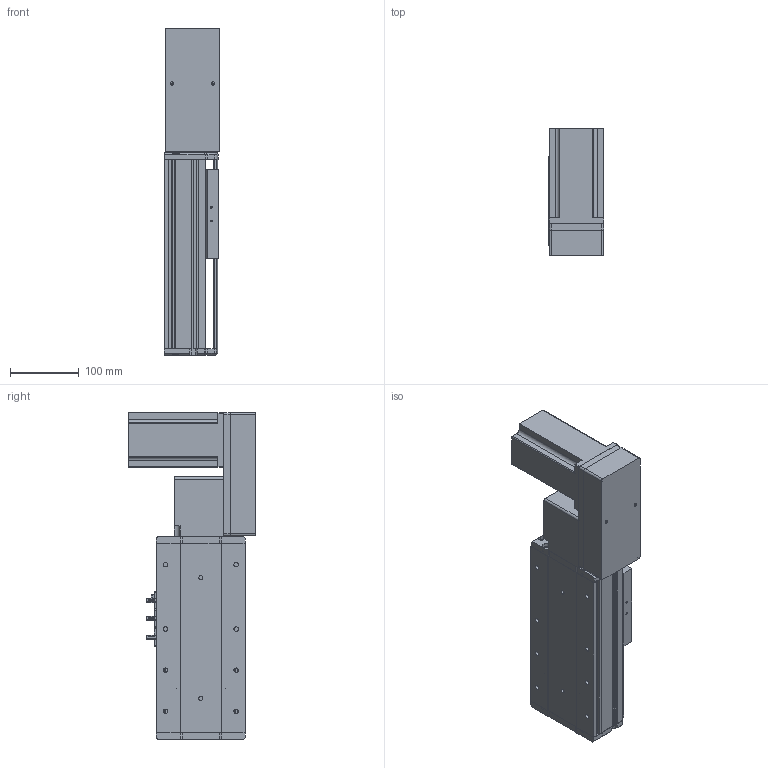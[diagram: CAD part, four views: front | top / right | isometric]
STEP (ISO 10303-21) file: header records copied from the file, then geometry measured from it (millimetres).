
FILE_DESCRIPTION (( 'STEP AP214' ), '1' );
FILE_NAME ('KSD130B-S50-MLB-CM.STEP', '2019-09-19T06:08:02', ( '微软用户' ), ( '微软中国' ), 'SwSTEP 2.0', 'SolidWorks 2014', '' );
FILE_SCHEMA (( 'AUTOMOTIVE_DESIGN' ));
Length unit declared in the file: millimetre
Products named in the file (12): 台达ECMA－C20807AS伺服电机; 130宽模组保护罩上下左右折-同步带; 130宽模组马达安装板连板左右折同步带; 覜茼え100遵圉猾敕; U倰嫖萇EEㄜSX672; 130宽盖板半封闭同步带-50行程; 130宽马达安装板同步带左-改; 130宽马达安装板同步带半封闭; 130宽同步带安装座半封闭; 130宽端盖同步带半封闭; 130宽底板半封闭同步带-50行程; KSD130B-S50-MLB-CM
Assembly tree (13 placements, depth 2):
  KSD130B-S50-MLB-CM
    130宽底板半封闭同步带-50行程
    130宽端盖同步带半封闭
    130宽同步带安装座半封闭
    130宽马达安装板同步带半封闭
    130宽马达安装板同步带左-改
    130宽盖板半封闭同步带-50行程
    U倰嫖萇EEㄜSX672  x3
    覜茼え100遵圉猾敕
    130宽模组马达安装板连板左右折同步带
    130宽模组保护罩上下左右折-同步带
    台达ECMA－C20807AS伺服电机
Bounding box: 81.48 x 184.8 x 477 mm (x, y, z)
Volume: 2423842.8 mm3; surface area: 575541.9 mm2
Topology: 14 solids, 14 shells, 1313 faces, 3661 edges, 2371 vertices
Faces by surface type: cylinder 604, plane 598, cone 111
Entity records: 41143 total; most frequent: CARTESIAN_POINT 7200, DIRECTION 6347, ORIENTED_EDGE 6086, EDGE_CURVE 3043, AXIS2_PLACEMENT_3D 2278, VERTEX_POINT 1995, LINE 1791, VECTOR 1791
